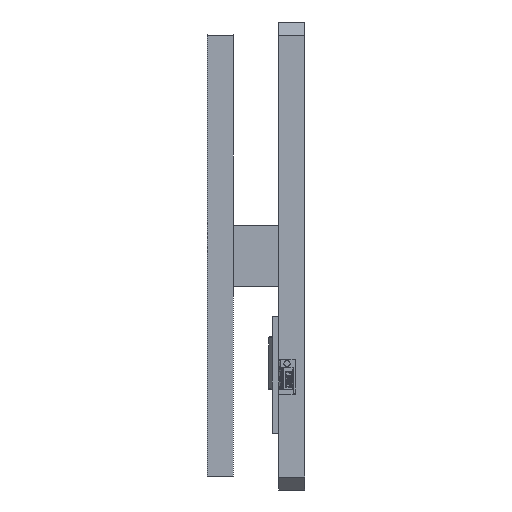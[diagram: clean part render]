
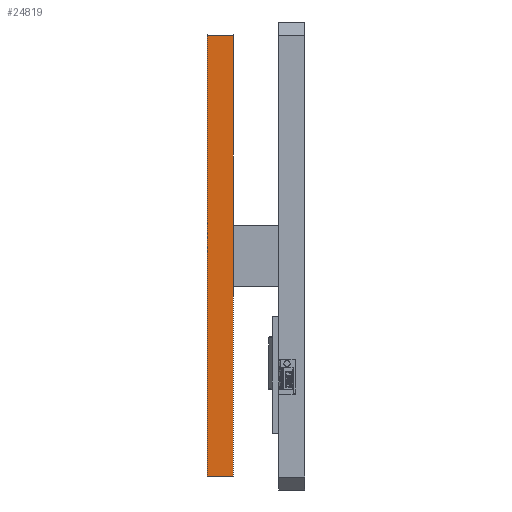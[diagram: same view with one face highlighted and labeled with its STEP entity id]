
A CAD part, left-side view. The second image highlights one B-rep face of the part: STEP entity #24819.
In plain terms, the highlighted planar face has unit normal (-1, 0, 0).
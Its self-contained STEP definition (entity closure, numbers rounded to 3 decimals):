
#326 = DIRECTION ( 'NONE',  ( 0., -1., 0. ) ) ;
#730 = PLANE ( 'NONE',  #22361 ) ;
#1828 = ORIENTED_EDGE ( 'NONE', *, *, #22980, .F. ) ;
#2312 = EDGE_LOOP ( 'NONE', ( #14146, #1828, #6245, #16894 ) ) ;
#3127 = CARTESIAN_POINT ( 'NONE',  ( -155.575, 12.7, 107.95 ) ) ;
#3129 = VERTEX_POINT ( 'NONE', #31284 ) ;
#4226 = EDGE_CURVE ( 'NONE', #33770, #3129, #32430, .T. ) ;
#4512 = LINE ( 'NONE', #22576, #21406 ) ;
#5476 = VECTOR ( 'NONE', #326, 1000. ) ;
#5602 = CARTESIAN_POINT ( 'NONE',  ( -155.575, 12.7, -107.95 ) ) ;
#6197 = EDGE_CURVE ( 'NONE', #3129, #7422, #4512, .T. ) ;
#6245 = ORIENTED_EDGE ( 'NONE', *, *, #30878, .F. ) ;
#7422 = VERTEX_POINT ( 'NONE', #15832 ) ;
#7544 = VECTOR ( 'NONE', #30933, 1000. ) ;
#8688 = CARTESIAN_POINT ( 'NONE',  ( -155.575, 12.7, -107.95 ) ) ;
#13725 = CARTESIAN_POINT ( 'NONE',  ( -155.575, 12.7, -107.95 ) ) ;
#14146 = ORIENTED_EDGE ( 'NONE', *, *, #6197, .T. ) ;
#14567 = CARTESIAN_POINT ( 'NONE',  ( -155.575, 12.7, -107.95 ) ) ;
#15832 = CARTESIAN_POINT ( 'NONE',  ( -155.575, 0., 107.95 ) ) ;
#16894 = ORIENTED_EDGE ( 'NONE', *, *, #4226, .T. ) ;
#17691 = DIRECTION ( 'NONE',  ( 1., 0., 0. ) ) ;
#18772 = LINE ( 'NONE', #13725, #33576 ) ;
#21406 = VECTOR ( 'NONE', #25386, 1000. ) ;
#22361 = AXIS2_PLACEMENT_3D ( 'NONE', #14567, #17691, #34227 ) ;
#22576 = CARTESIAN_POINT ( 'NONE',  ( -155.575, 0., -107.95 ) ) ;
#22980 = EDGE_CURVE ( 'NONE', #35834, #7422, #25822, .T. ) ;
#24819 = ADVANCED_FACE ( 'NONE', ( #31308 ), #730, .F. ) ;
#25244 = DIRECTION ( 'NONE',  ( 0., 0., 1. ) ) ;
#25386 = DIRECTION ( 'NONE',  ( 0., 0., 1. ) ) ;
#25822 = LINE ( 'NONE', #3127, #7544 ) ;
#30878 = EDGE_CURVE ( 'NONE', #33770, #35834, #18772, .T. ) ;
#30933 = DIRECTION ( 'NONE',  ( 0., -1., 0. ) ) ;
#31284 = CARTESIAN_POINT ( 'NONE',  ( -155.575, 0., -107.95 ) ) ;
#31308 = FACE_OUTER_BOUND ( 'NONE', #2312, .T. ) ;
#32430 = LINE ( 'NONE', #8688, #5476 ) ;
#33576 = VECTOR ( 'NONE', #25244, 1000. ) ;
#33770 = VERTEX_POINT ( 'NONE', #5602 ) ;
#34227 = DIRECTION ( 'NONE',  ( 0., 0., -1. ) ) ;
#35511 = CARTESIAN_POINT ( 'NONE',  ( -155.575, 12.7, 107.95 ) ) ;
#35834 = VERTEX_POINT ( 'NONE', #35511 ) ;
